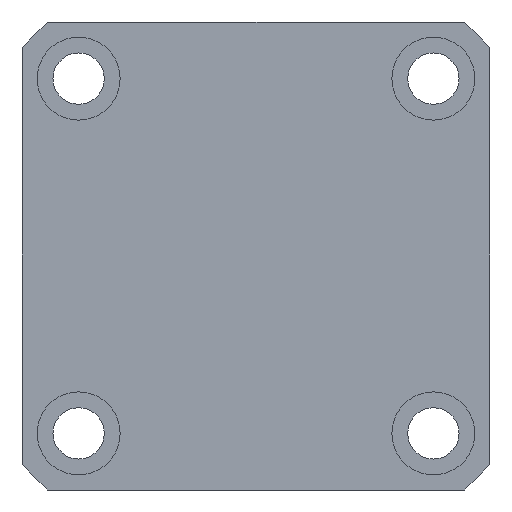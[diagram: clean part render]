
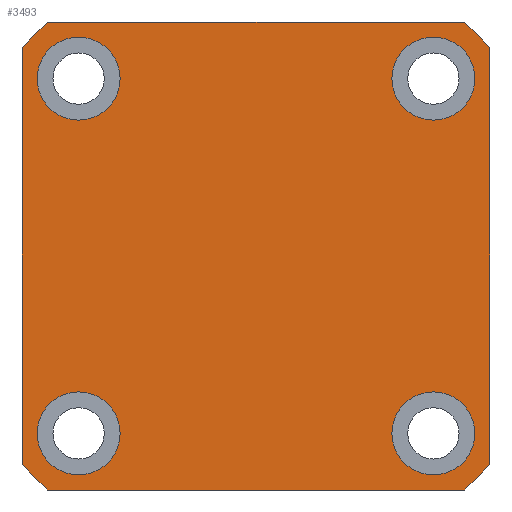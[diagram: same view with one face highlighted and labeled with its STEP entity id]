
A CAD part, left-side view. The second image highlights one B-rep face of the part: STEP entity #3493.
In plain terms, the highlighted planar face has unit normal (-1, 0, 0).
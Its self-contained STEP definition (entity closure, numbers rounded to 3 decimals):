
#3493=ADVANCED_FACE('',(#4263,#4264,#4265,#4266,#4267),#3948,.F.);
#3948=PLANE('',#11307);
#4263=FACE_BOUND('',#4453,.T.);
#4264=FACE_BOUND('',#4454,.T.);
#4265=FACE_BOUND('',#4455,.T.);
#4266=FACE_BOUND('',#4456,.T.);
#4267=FACE_BOUND('',#4457,.T.);
#4453=EDGE_LOOP('',(#5178,#5179,#5180,#5181,#5182,#5183,#5184,#5185));
#4454=EDGE_LOOP('',(#5186));
#4455=EDGE_LOOP('',(#5187));
#4456=EDGE_LOOP('',(#5188));
#4457=EDGE_LOOP('',(#5189));
#4994=CIRCLE('',#11243,5.5);
#4996=CIRCLE('',#11246,5.5);
#4998=CIRCLE('',#11249,5.5);
#5000=CIRCLE('',#11252,5.5);
#5033=CIRCLE('',#11303,41.5);
#5034=CIRCLE('',#11304,41.5);
#5035=CIRCLE('',#11305,41.5);
#5036=CIRCLE('',#11306,41.5);
#5178=ORIENTED_EDGE('',*,*,#8487,.F.);
#5179=ORIENTED_EDGE('',*,*,#8488,.F.);
#5180=ORIENTED_EDGE('',*,*,#8489,.F.);
#5181=ORIENTED_EDGE('',*,*,#8490,.F.);
#5182=ORIENTED_EDGE('',*,*,#8491,.F.);
#5183=ORIENTED_EDGE('',*,*,#8399,.F.);
#5184=ORIENTED_EDGE('',*,*,#8492,.F.);
#5185=ORIENTED_EDGE('',*,*,#8485,.F.);
#5186=ORIENTED_EDGE('',*,*,#8405,.F.);
#5187=ORIENTED_EDGE('',*,*,#8407,.F.);
#5188=ORIENTED_EDGE('',*,*,#8409,.F.);
#5189=ORIENTED_EDGE('',*,*,#8411,.F.);
#7545=VERTEX_POINT('',#13388);
#7546=VERTEX_POINT('',#13390);
#7551=VERTEX_POINT('',#13457);
#7553=VERTEX_POINT('',#13462);
#7555=VERTEX_POINT('',#13467);
#7557=VERTEX_POINT('',#13472);
#7626=VERTEX_POINT('',#14875);
#7627=VERTEX_POINT('',#14877);
#7628=VERTEX_POINT('',#14881);
#7629=VERTEX_POINT('',#14883);
#7630=VERTEX_POINT('',#14885);
#7631=VERTEX_POINT('',#14887);
#8399=EDGE_CURVE('',#7545,#7546,#9625,.T.);
#8405=EDGE_CURVE('',#7551,#7551,#4994,.T.);
#8407=EDGE_CURVE('',#7553,#7553,#4996,.T.);
#8409=EDGE_CURVE('',#7555,#7555,#4998,.T.);
#8411=EDGE_CURVE('',#7557,#7557,#5000,.T.);
#8485=EDGE_CURVE('',#7626,#7627,#9634,.T.);
#8487=EDGE_CURVE('',#7628,#7626,#5033,.T.);
#8488=EDGE_CURVE('',#7629,#7628,#9636,.T.);
#8489=EDGE_CURVE('',#7630,#7629,#5034,.T.);
#8490=EDGE_CURVE('',#7631,#7630,#9637,.T.);
#8491=EDGE_CURVE('',#7546,#7631,#5035,.T.);
#8492=EDGE_CURVE('',#7627,#7545,#5036,.T.);
#9625=LINE('',#13389,#10386);
#9634=LINE('',#14876,#10395);
#9636=LINE('',#14882,#10397);
#9637=LINE('',#14886,#10398);
#10386=VECTOR('',#11677,1.);
#10395=VECTOR('',#11808,1.);
#10397=VECTOR('',#11814,1.);
#10398=VECTOR('',#11817,1.);
#11243=AXIS2_PLACEMENT_3D('',#13456,#11683,#11684);
#11246=AXIS2_PLACEMENT_3D('',#13461,#11689,#11690);
#11249=AXIS2_PLACEMENT_3D('',#13466,#11695,#11696);
#11252=AXIS2_PLACEMENT_3D('',#13471,#11701,#11702);
#11303=AXIS2_PLACEMENT_3D('',#14880,#11812,#11813);
#11304=AXIS2_PLACEMENT_3D('',#14884,#11815,#11816);
#11305=AXIS2_PLACEMENT_3D('',#14888,#11818,#11819);
#11306=AXIS2_PLACEMENT_3D('',#14889,#11820,#11821);
#11307=AXIS2_PLACEMENT_3D('',#14890,#11822,#11823);
#11677=DIRECTION('',(0.,1.,0.));
#11683=DIRECTION('',(-1.,0.,0.));
#11684=DIRECTION('',(0.,0.,1.));
#11689=DIRECTION('',(-1.,0.,0.));
#11690=DIRECTION('',(0.,0.,1.));
#11695=DIRECTION('',(-1.,0.,0.));
#11696=DIRECTION('',(0.,0.,1.));
#11701=DIRECTION('',(-1.,0.,0.));
#11702=DIRECTION('',(0.,0.,1.));
#11808=DIRECTION('',(0.,0.,-1.));
#11812=DIRECTION('',(1.,0.,0.));
#11813=DIRECTION('',(0.,0.,-1.));
#11814=DIRECTION('',(0.,-1.,0.));
#11815=DIRECTION('',(1.,0.,0.));
#11816=DIRECTION('',(0.,0.,-1.));
#11817=DIRECTION('',(0.,0.,1.));
#11818=DIRECTION('',(1.,0.,0.));
#11819=DIRECTION('',(0.,0.,-1.));
#11820=DIRECTION('',(1.,0.,0.));
#11821=DIRECTION('',(0.,0.,-1.));
#11822=DIRECTION('',(1.,0.,0.));
#11823=DIRECTION('',(0.,0.,1.));
#13388=CARTESIAN_POINT('',(0.,3.409,-62.451));
#13389=CARTESIAN_POINT('',(0.,31.,-62.451));
#13390=CARTESIAN_POINT('',(0.,58.591,-62.451));
#13456=CARTESIAN_POINT('',(0.,7.5,-54.951));
#13457=CARTESIAN_POINT('',(0.,7.5,-49.451));
#13461=CARTESIAN_POINT('',(0.,7.5,-7.951));
#13462=CARTESIAN_POINT('',(0.,7.5,-2.451));
#13466=CARTESIAN_POINT('',(0.,54.5,-7.951));
#13467=CARTESIAN_POINT('',(0.,54.5,-2.451));
#13471=CARTESIAN_POINT('',(0.,54.5,-54.951));
#13472=CARTESIAN_POINT('',(0.,54.5,-49.451));
#14875=CARTESIAN_POINT('',(0.,0.,-3.86));
#14876=CARTESIAN_POINT('',(0.,0.,-6.451));
#14877=CARTESIAN_POINT('',(0.,0.,-59.042));
#14880=CARTESIAN_POINT('',(0.,31.,-31.451));
#14881=CARTESIAN_POINT('',(0.,3.409,-0.451));
#14882=CARTESIAN_POINT('',(0.,31.,-0.451));
#14883=CARTESIAN_POINT('',(0.,58.591,-0.451));
#14884=CARTESIAN_POINT('',(0.,31.,-31.451));
#14885=CARTESIAN_POINT('',(0.,62.,-3.86));
#14886=CARTESIAN_POINT('',(0.,62.,-31.451));
#14887=CARTESIAN_POINT('',(0.,62.,-59.042));
#14888=CARTESIAN_POINT('',(0.,31.,-31.451));
#14889=CARTESIAN_POINT('',(0.,31.,-31.451));
#14890=CARTESIAN_POINT('',(0.,31.,-31.451));
